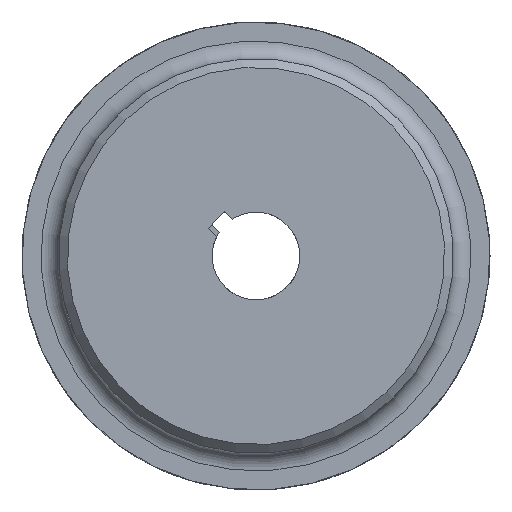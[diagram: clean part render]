
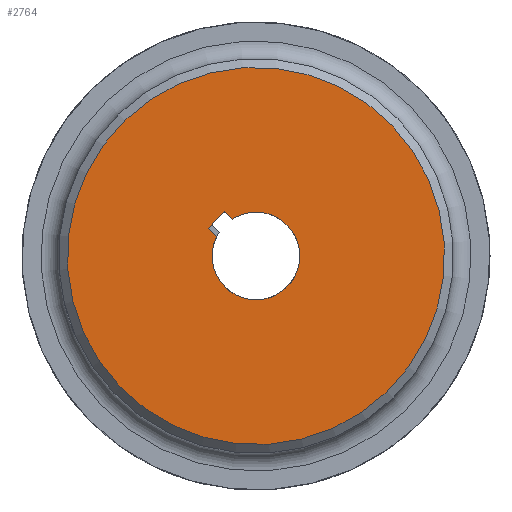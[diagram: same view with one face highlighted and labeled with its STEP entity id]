
A CAD part, left-side view. The second image highlights one B-rep face of the part: STEP entity #2764.
In plain terms, the highlighted planar face has unit normal (-1, 0, 0) as drawn and (0, 0, -1) by its records, which use the part's own axes.
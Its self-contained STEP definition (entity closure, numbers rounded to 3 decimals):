
#159=LINE('',#6230,#258);
#162=LINE('',#6236,#261);
#165=LINE('',#6242,#264);
#258=VECTOR('',#3686,10.);
#261=VECTOR('',#3691,10.);
#264=VECTOR('',#3696,10.);
#377=FACE_BOUND('',#711,.T.);
#533=FACE_OUTER_BOUND('',#710,.T.);
#710=EDGE_LOOP('',(#2538));
#711=EDGE_LOOP('',(#2539,#2540,#2541,#2542));
#960=CIRCLE('',#3073,15.);
#1030=CIRCLE('',#3183,64.5);
#1227=VERTEX_POINT('',#6227);
#1228=VERTEX_POINT('',#6229);
#1230=VERTEX_POINT('',#6235);
#1232=VERTEX_POINT('',#6241);
#1307=VERTEX_POINT('',#6561);
#1600=EDGE_CURVE('',#1228,#1227,#159,.T.);
#1603=EDGE_CURVE('',#1230,#1228,#162,.T.);
#1606=EDGE_CURVE('',#1232,#1230,#165,.T.);
#1609=EDGE_CURVE('',#1227,#1232,#960,.T.);
#1720=EDGE_CURVE('',#1307,#1307,#1030,.T.);
#2538=ORIENTED_EDGE('',*,*,#1720,.F.);
#2539=ORIENTED_EDGE('',*,*,#1606,.T.);
#2540=ORIENTED_EDGE('',*,*,#1603,.T.);
#2541=ORIENTED_EDGE('',*,*,#1600,.T.);
#2542=ORIENTED_EDGE('',*,*,#1609,.T.);
#2609=PLANE('',#3182);
#2764=ADVANCED_FACE('',(#533,#377),#2609,.T.);
#3073=AXIS2_PLACEMENT_3D('',#6246,#3702,#3703);
#3182=AXIS2_PLACEMENT_3D('',#6560,#3951,#3952);
#3183=AXIS2_PLACEMENT_3D('',#6562,#3953,#3954);
#3686=DIRECTION('',(0.995,0.105,0.));
#3691=DIRECTION('',(0.105,-0.995,0.));
#3696=DIRECTION('',(-0.995,-0.105,0.));
#3702=DIRECTION('center_axis',(0.,0.,
1.));
#3703=DIRECTION('ref_axis',(0.995,0.105,0.));
#3951=DIRECTION('center_axis',(0.,0.,
-1.));
#3952=DIRECTION('ref_axis',(0.,-1.,0.));
#3953=DIRECTION('center_axis',(0.,0.,
1.));
#3954=DIRECTION('ref_axis',(0.,1.,0.));
#6227=CARTESIAN_POINT('',(-13.96,-5.489,-85.));
#6229=CARTESIAN_POINT('',(-17.782,-5.891,-85.));
#6230=CARTESIAN_POINT('',(-8.682,-4.935,-85.));
#6235=CARTESIAN_POINT('',(-18.618,2.065,-85.));
#6236=CARTESIAN_POINT('',(-18.409,0.076,-85.));
#6241=CARTESIAN_POINT('',(-14.796,2.467,-85.));
#6242=CARTESIAN_POINT('',(-7.607,3.223,-85.));
#6246=CARTESIAN_POINT('Origin',(0.,0.,
-85.));
#6560=CARTESIAN_POINT('Origin',(0.,0.,
-85.));
#6561=CARTESIAN_POINT('',(0.,-64.5,-85.));
#6562=CARTESIAN_POINT('Origin',(0.,0.,
-85.));
